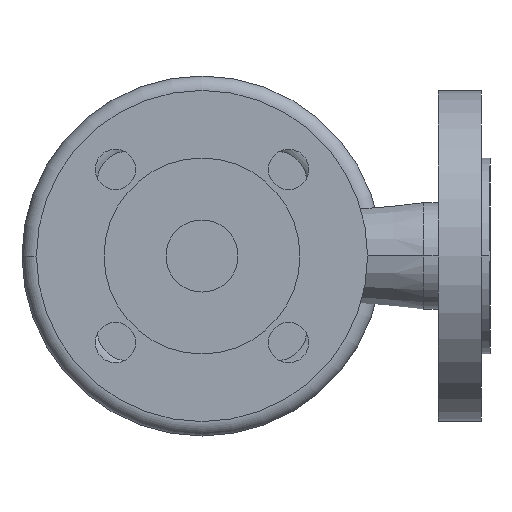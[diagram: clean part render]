
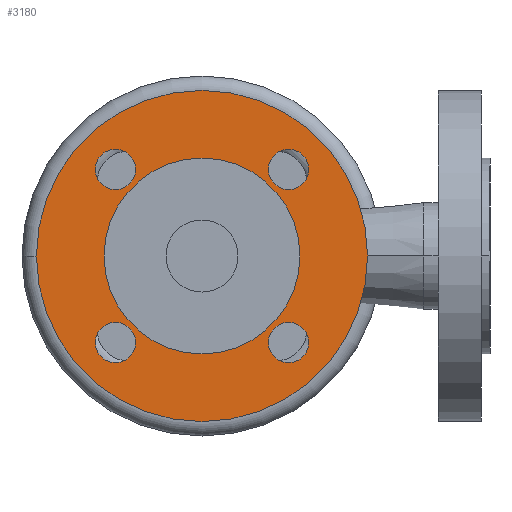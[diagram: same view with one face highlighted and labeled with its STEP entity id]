
A CAD part, front view. The second image highlights one B-rep face of the part: STEP entity #3180.
In plain terms, the highlighted planar face has unit normal (0, -1, 0).
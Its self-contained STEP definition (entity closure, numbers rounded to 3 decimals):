
#610=CARTESIAN_POINT('',(34.,3.,0.));
#620=VERTEX_POINT('',#610);
#650=CARTESIAN_POINT('',(0.,3.,0.));
#660=DIRECTION('',(0.,-1.,0.));
#670=DIRECTION('',(-1.,0.,0.));
#680=AXIS2_PLACEMENT_3D('',#650,#660,#670);
#690=CIRCLE('',#680,34.);
#700=CARTESIAN_POINT('',(-34.,3.,0.));
#710=VERTEX_POINT('',#700);
#720=EDGE_CURVE('',#710,#620,#690,.T.);
#2330=CARTESIAN_POINT('',(0.,3.,0.));
#2340=DIRECTION('',(0.,1.,0.));
#2350=DIRECTION('',(0.,0.,1.));
#2360=AXIS2_PLACEMENT_3D('',#2330,#2340,#2350);
#2370=PLANE('',#2360);
#2380=CARTESIAN_POINT('',(-30.052,3.,30.052));
#2390=DIRECTION('',(0.,1.,0.));
#2400=DIRECTION('',(1.,0.,0.));
#2410=AXIS2_PLACEMENT_3D('',#2380,#2390,#2400);
#2420=CIRCLE('',#2410,7.);
#2430=CARTESIAN_POINT('',(-37.052,3.,30.052));
#2440=VERTEX_POINT('',#2430);
#2450=CARTESIAN_POINT('',(-23.052,3.,30.052));
#2460=VERTEX_POINT('',#2450);
#2470=EDGE_CURVE('',#2440,#2460,#2420,.T.);
#2480=ORIENTED_EDGE('',*,*,#2470,.T.);
#2490=EDGE_CURVE('',#2460,#2440,#2420,.T.);
#2500=ORIENTED_EDGE('',*,*,#2490,.T.);
#2510=EDGE_LOOP('',(#2500,#2480));
#2520=FACE_BOUND('',#2510,.T.);
#2530=CARTESIAN_POINT('',(-30.052,3.,-30.052));
#2540=DIRECTION('',(0.,1.,0.));
#2550=DIRECTION('',(1.,0.,0.));
#2560=AXIS2_PLACEMENT_3D('',#2530,#2540,#2550);
#2570=CIRCLE('',#2560,7.);
#2580=CARTESIAN_POINT('',(-23.052,3.,-30.052));
#2590=VERTEX_POINT('',#2580);
#2600=CARTESIAN_POINT('',(-37.052,3.,-30.052));
#2610=VERTEX_POINT('',#2600);
#2620=EDGE_CURVE('',#2590,#2610,#2570,.T.);
#2630=ORIENTED_EDGE('',*,*,#2620,.T.);
#2640=EDGE_CURVE('',#2610,#2590,#2570,.T.);
#2650=ORIENTED_EDGE('',*,*,#2640,.T.);
#2660=EDGE_LOOP('',(#2650,#2630));
#2670=FACE_BOUND('',#2660,.T.);
#2680=CARTESIAN_POINT('',(30.052,3.,30.052));
#2690=DIRECTION('',(0.,1.,0.));
#2700=DIRECTION('',(1.,0.,0.));
#2710=AXIS2_PLACEMENT_3D('',#2680,#2690,#2700);
#2720=CIRCLE('',#2710,7.);
#2730=CARTESIAN_POINT('',(23.052,3.,30.052));
#2740=VERTEX_POINT('',#2730);
#2750=CARTESIAN_POINT('',(37.052,3.,30.052));
#2760=VERTEX_POINT('',#2750);
#2770=EDGE_CURVE('',#2740,#2760,#2720,.T.);
#2780=ORIENTED_EDGE('',*,*,#2770,.T.);
#2790=EDGE_CURVE('',#2760,#2740,#2720,.T.);
#2800=ORIENTED_EDGE('',*,*,#2790,.T.);
#2810=EDGE_LOOP('',(#2800,#2780));
#2820=FACE_BOUND('',#2810,.T.);
#2830=CARTESIAN_POINT('',(30.052,3.,-30.052));
#2840=DIRECTION('',(0.,1.,0.));
#2850=DIRECTION('',(1.,0.,0.));
#2860=AXIS2_PLACEMENT_3D('',#2830,#2840,#2850);
#2870=CIRCLE('',#2860,7.);
#2880=CARTESIAN_POINT('',(37.052,3.,-30.052));
#2890=VERTEX_POINT('',#2880);
#2900=CARTESIAN_POINT('',(23.052,3.,-30.052));
#2910=VERTEX_POINT('',#2900);
#2920=EDGE_CURVE('',#2890,#2910,#2870,.T.);
#2930=ORIENTED_EDGE('',*,*,#2920,.T.);
#2940=EDGE_CURVE('',#2910,#2890,#2870,.T.);
#2950=ORIENTED_EDGE('',*,*,#2940,.T.);
#2960=EDGE_LOOP('',(#2950,#2930));
#2970=FACE_BOUND('',#2960,.T.);
#2980=CARTESIAN_POINT('',(0.,3.,0.));
#2990=DIRECTION('',(0.,1.,0.));
#3000=DIRECTION('',(1.,0.,0.));
#3010=AXIS2_PLACEMENT_3D('',#2980,#2990,#3000);
#3020=CIRCLE('',#3010,57.5);
#3030=CARTESIAN_POINT('',(-57.5,3.,0.));
#3040=VERTEX_POINT('',#3030);
#3050=CARTESIAN_POINT('',(57.5,3.,0.));
#3060=VERTEX_POINT('',#3050);
#3070=EDGE_CURVE('',#3040,#3060,#3020,.T.);
#3080=ORIENTED_EDGE('',*,*,#3070,.F.);
#3090=EDGE_CURVE('',#3060,#3040,#3020,.T.);
#3100=ORIENTED_EDGE('',*,*,#3090,.F.);
#3110=EDGE_LOOP('',(#3100,#3080));
#3120=FACE_OUTER_BOUND('',#3110,.T.);
#3130=EDGE_CURVE('',#620,#710,#690,.T.);
#3140=ORIENTED_EDGE('',*,*,#3130,.F.);
#3150=ORIENTED_EDGE('',*,*,#720,.F.);
#3160=EDGE_LOOP('',(#3150,#3140));
#3170=FACE_BOUND('',#3160,.T.);
#3180=ADVANCED_FACE('',(#2520,#2670,#2820,#2970,#3120,#3170),#2370,.F.);
